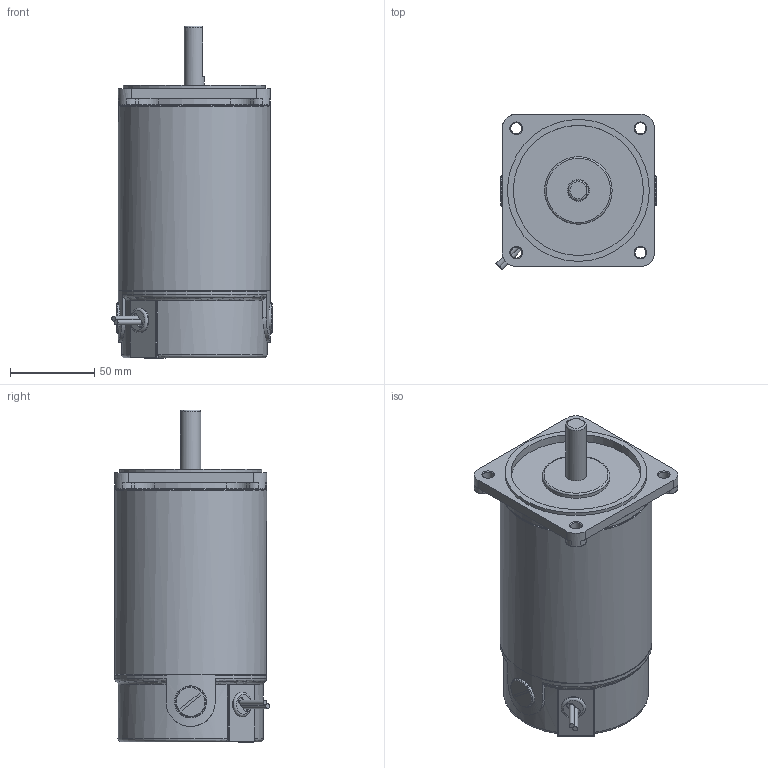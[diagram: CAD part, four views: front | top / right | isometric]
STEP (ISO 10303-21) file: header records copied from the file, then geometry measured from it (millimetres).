
FILE_DESCRIPTION((''),'2;1');
FILE_NAME('\\192.168.5.4\오메가연구소\DC CAD\02 - DC MOTOR 설계 - CAD FILE\DC MOTOR 3D 도면\표준 3D 파일\90각\200W\S9D200-ㅁK.stp','2014-06-16T19:51:19',('ycw1227'),(''),'Autodesk Inventor 2011','Autodesk Inventor 2011','');
FILE_SCHEMA(('AUTOMOTIVE_DESIGN { 1 0 10303 214 1 1 1 1 }'));
Length unit declared in the file: millimetre
Products named in the file (1): 부품31
Bounding box: 94.79 x 91.63 x 196.5 mm (x, y, z)
Volume: 1005939.3 mm3; surface area: 68166.4 mm2
Topology: 2 solids, 4 shells, 186 faces, 429 edges, 264 vertices
Faces by surface type: plane 75, cylinder 64, torus 31, cone 13, sphere 2, bspline 1
Full cylindrical faces by diameter (mm): 3 x2, 5 x3, 6.5 x4, 12 x1, 13 x1, 14.63 x1, 14.65 x1, 18 x2, 19 x2, 40 x1, 77 x1, 84 x1, 90 x2
Entity records: 5586 total; most frequent: CARTESIAN_POINT 1316, DIRECTION 939, ORIENTED_EDGE 780, AXIS2_PLACEMENT_3D 395, EDGE_CURVE 390, VERTEX_POINT 258, EDGE_LOOP 241, CIRCLE 209
